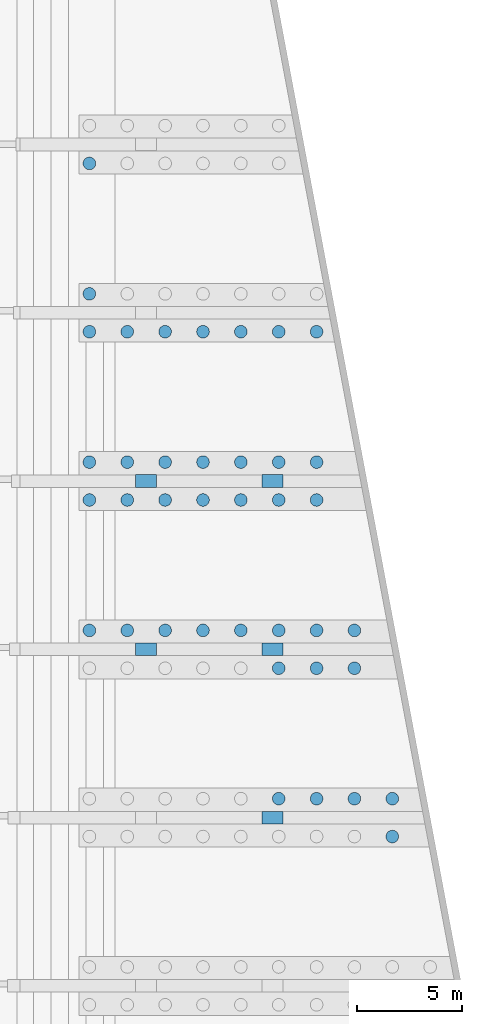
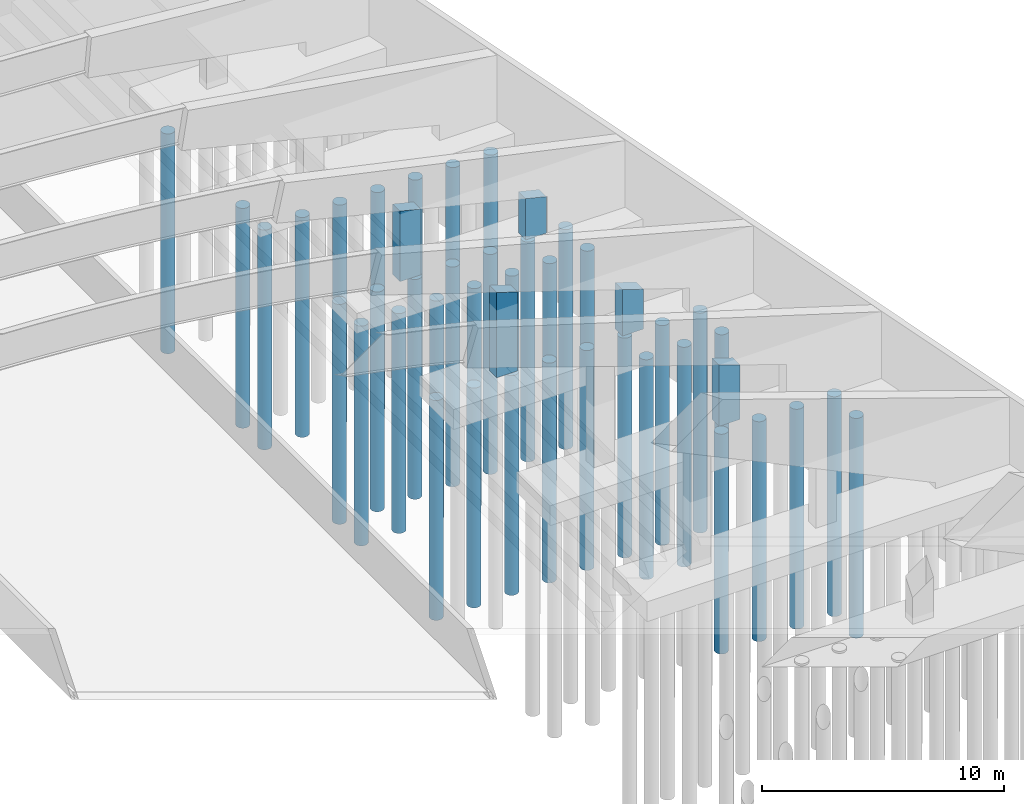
# One storey, part 4 of 10: 44 columns.
"""IFC2X3 building model written with IfcOpenShell, lengths in millimetres."""

import ifcopenshell
import ifcopenshell.guid

model = None  # the IFC model being written
_history = None  # IfcOwnerHistory: only IFC2X3 demands one
_inside = {}  # id of a spatial element -> (the spatial element, [elements in it])
_under = {}  # id of a project, library or spatial element -> (it, [spatial elements below it])
_declared = {}  # id of a project -> (the project, [libraries it declares])
_typed = {}  # id of a type object -> (the type object, [elements of that type])
_made_of = {}  # id of a material, layer set ... -> (it, [elements and type objects made of it])


def new_model(schema):
    """Start an empty IFC model of exactly this schema.

    Asked for "IFC4X3", IfcOpenShell would pick the latest addendum, in which some entities
    have other attributes; the version numbers below select the first issue.
    IFC2X3 requires an IfcOwnerHistory on every rooted entity: one is made here for all.
    """
    global model, _history
    if schema == "IFC4X3":
        model = ifcopenshell.file(schema_version=(4, 3, 0, 0))
    else:
        model = ifcopenshell.file(schema=schema)
    _inside.clear()
    _under.clear()
    _declared.clear()
    _typed.clear()
    _made_of.clear()
    _history = None
    if model.schema == "IFC2X3":
        org = make("IfcOrganization", Name="unknown")
        user = make(
            "IfcPersonAndOrganization",
            ThePerson=make("IfcPerson", FamilyName="unknown"),
            TheOrganization=org,
        )
        app = make(
            "IfcApplication",
            ApplicationDeveloper=org,
            Version="unknown",
            ApplicationFullName="unknown",
            ApplicationIdentifier="unknown",
        )
        _history = make(
            "IfcOwnerHistory",
            OwningUser=user,
            OwningApplication=app,
            ChangeAction="ADDED",
            CreationDate=0,
        )
    return model


def make(cls, **values):
    """One entity of the class cls with the attributes given. An attribute that is None is left unset."""
    return model.create_entity(
        cls, **{name: value for name, value in values.items() if value is not None}
    )


def rooted(cls, **values):
    """An entity with a GlobalId (a new one), such as an element, a storey or a relation."""
    return make(cls, GlobalId=ifcopenshell.guid.new(), OwnerHistory=_history, **values)


def si_unit(unit_type, name, prefix=None):
    """IfcSIUnit, for example si_unit("LENGTHUNIT", "METRE", prefix="MILLI")."""
    return make("IfcSIUnit", UnitType=unit_type, Prefix=prefix, Name=name)


def derived_unit(unit_type, elements):
    """IfcDerivedUnit: a product of units, each with its exponent."""
    return make(
        "IfcDerivedUnit",
        Elements=[
            make("IfcDerivedUnitElement", Unit=unit, Exponent=power)
            for unit, power in elements
        ],
        UnitType=unit_type,
    )


def assignment(units):
    """IfcUnitAssignment: the units of a project."""
    return None if units is None else make("IfcUnitAssignment", Units=units)


def point(xyz):
    """IfcCartesianPoint."""
    return None if xyz is None else make("IfcCartesianPoint", Coordinates=xyz)


def direction(xyz):
    """IfcDirection."""
    return None if xyz is None else make("IfcDirection", DirectionRatios=xyz)


def frame(location, z_axis=None, x_axis=None):
    """IfcAxis2Placement3D, a coordinate frame: its origin and axes. An axis left out is left unset."""
    return make(
        "IfcAxis2Placement3D",
        Location=point(location),
        Axis=direction(z_axis),
        RefDirection=direction(x_axis),
    )


def frame_2d(location, x_axis=None):
    """IfcAxis2Placement2D, a coordinate frame in the plane: its origin and x axis."""
    return make(
        "IfcAxis2Placement2D", Location=point(location), RefDirection=direction(x_axis)
    )


def origin():
    """The frame at (0, 0, 0) with its axes left unset."""
    return frame((0.0, 0.0, 0.0))


def origin_2d_with_axis():
    """The frame at (0, 0) in the plane with the x axis (1, 0) written out."""
    return frame_2d((0.0, 0.0), x_axis=(1.0, 0.0))


def place(relative_to, where):
    """IfcLocalPlacement: puts the frame where relative to a parent placement (None: the world)."""
    return make(
        "IfcLocalPlacement", PlacementRelTo=relative_to, RelativePlacement=where
    )


def context(
    kind, dimensions, precision=None, world=None, true_north=None, identifier=None
):
    """IfcGeometricRepresentationContext, for example the 3D "Model" context."""
    return make(
        "IfcGeometricRepresentationContext",
        ContextIdentifier=identifier,
        ContextType=kind,
        CoordinateSpaceDimension=dimensions,
        Precision=precision,
        WorldCoordinateSystem=world,
        TrueNorth=true_north,
    )


def subcontext(parent, identifier, kind, view, scale=None):
    """IfcGeometricRepresentationSubContext, for example "Body" below "Model"."""
    return make(
        "IfcGeometricRepresentationSubContext",
        ContextIdentifier=identifier,
        ContextType=kind,
        ParentContext=parent,
        TargetScale=scale,
        TargetView=view,
    )


def project(units=None, contexts=None):
    """IfcProject with its units and contexts."""
    return rooted(
        "IfcProject",
        Name="project",
        RepresentationContexts=contexts,
        UnitsInContext=assignment(units),
    )


def spatial(cls, under=None, at=None, **own):
    """A site, building, storey or space (cls), placed at a placement, below another one or the project."""
    s = rooted(cls, ObjectPlacement=at, **own)
    if under is not None:
        _under.setdefault(under.id(), (under, []))[1].append(s)
    return s


def profile(cls, at=None, kind="AREA", **sizes):
    """A parametric profile (cls). Its sizes go by their IFC names, for example OverallWidth=200.0."""
    return make(cls, ProfileType=kind, Position=at, **sizes)


def rectangle(**sizes):
    """IfcRectangleProfileDef."""
    return profile("IfcRectangleProfileDef", **sizes)


def circle(**sizes):
    """IfcCircleProfileDef."""
    return profile("IfcCircleProfileDef", **sizes)


def extrude(swept, where, along, depth):
    """IfcExtrudedAreaSolid: the profile swept, set in the frame where, extruded along a direction by depth."""
    return make(
        "IfcExtrudedAreaSolid",
        SweptArea=swept,
        Position=where,
        ExtrudedDirection=direction(along),
        Depth=depth,
    )


def clip(a, b, op="DIFFERENCE"):
    """IfcBooleanClippingResult: the solid a cut by the half space b."""
    return make(
        "IfcBooleanClippingResult", Operator=op, FirstOperand=a, SecondOperand=b
    )


def halfspace(plane, agree):
    """IfcHalfSpaceSolid: all space on one side of the plane z = 0 of the frame plane."""
    return make(
        "IfcHalfSpaceSolid",
        BaseSurface=make("IfcPlane", Position=plane),
        AgreementFlag=agree,
    )


def shape(context_of_items, identifier, shape_type, items):
    """IfcShapeRepresentation: the items that make up one representation, for example the "Body"."""
    return make(
        "IfcShapeRepresentation",
        ContextOfItems=context_of_items,
        RepresentationIdentifier=identifier,
        RepresentationType=shape_type,
        Items=items,
    )


def source(mapping_origin, context_of_items, identifier, shape_type, items):
    """IfcRepresentationMap: a shape defined once, which mapped items show again and again."""
    return make(
        "IfcRepresentationMap",
        MappingOrigin=mapping_origin,
        MappedRepresentation=shape(context_of_items, identifier, shape_type, items),
    )


def transform(
    local_origin,
    x_axis=None,
    y_axis=None,
    z_axis=None,
    scale=None,
    scale2=None,
    scale3=None,
    uniform=True,
):
    """IfcCartesianTransformationOperator3D, or its non-uniform kind. x_axis, y_axis, z_axis: its Axis1, 2, 3."""
    if uniform:
        return make(
            "IfcCartesianTransformationOperator3D",
            Axis1=direction(x_axis),
            Axis2=direction(y_axis),
            LocalOrigin=point(local_origin),
            Scale=scale,
            Axis3=direction(z_axis),
        )
    return make(
        "IfcCartesianTransformationOperator3DnonUniform",
        Axis1=direction(x_axis),
        Axis2=direction(y_axis),
        LocalOrigin=point(local_origin),
        Scale=scale,
        Axis3=direction(z_axis),
        Scale2=scale2,
        Scale3=scale3,
    )


def mapped(mapping_source, mapping_target):
    """IfcMappedItem: shows the shape of a source again, moved by a transform."""
    return make(
        "IfcMappedItem", MappingSource=mapping_source, MappingTarget=mapping_target
    )


def material(Name=None, Category=None):
    """IfcMaterial."""
    return make("IfcMaterial", Name=Name, Category=Category)


def made_of(thing, what):
    """Note that an element or type object is made of a material, layer set ...; save() writes the relation."""
    if what is not None:
        _made_of.setdefault(what.id(), (what, []))[1].append(thing)
    return thing


def type_object(cls, material=None, **own):
    """A type object (cls), such as IfcWallType, which elements share."""
    return made_of(rooted(cls, **own), material)


def type_shapes(of_type, sources):
    """Give a type object the sources (RepresentationMaps) that its elements show as mapped items."""
    of_type.RepresentationMaps = sources


def element(
    cls,
    number,
    at=None,
    inside=None,
    cuts=None,
    type_object=None,
    material=None,
    context=None,
    identifier="Body",
    shape_type=None,
    held_by="IfcProductDefinitionShape",
    body=None,
    shapes=None,
    **own,
):
    """One element of the class cls, such as IfcWall. Its Tag is "e" and its number.

    at: its placement. inside: the storey or other place that contains it. cuts: it is an
    opening in that element (IfcRelVoidsElement). A single representation is given by context,
    identifier, shape_type and body (its items); several are given by shapes. held_by: the class
    of the entity that holds the representations. save() writes the other relations.
    """
    e = rooted(cls, Tag="e%d" % number, ObjectPlacement=at, **own)
    if body is not None:
        shapes = [shape(context, identifier, shape_type, body)]
    if shapes is not None:
        e.Representation = make(held_by, Representations=shapes)
    if inside is not None:
        _inside.setdefault(inside.id(), (inside, []))[1].append(e)
    if cuts is not None:
        rooted(
            "IfcRelVoidsElement", RelatingBuildingElement=cuts, RelatedOpeningElement=e
        )
    if type_object is not None:
        _typed.setdefault(type_object.id(), (type_object, []))[1].append(e)
    return made_of(e, material)


def aggregate(whole, parts):
    """IfcRelAggregates: a whole, such as a stair, and the parts it consists of."""
    return rooted("IfcRelAggregates", RelatingObject=whole, RelatedObjects=parts)


def save(model, path):
    """Write the relations noted so far, then the file.

    IfcRelAggregates (storeys below a building ...), IfcRelContainedInSpatialStructure (elements
    in a storey), IfcRelDefinesByType, IfcRelAssociatesMaterial and IfcRelDeclares: one each for
    every whole, place, type object, material and project.
    """
    for whole, parts in _under.values():
        aggregate(whole, parts)
    for where, things in _inside.values():
        rooted(
            "IfcRelContainedInSpatialStructure",
            RelatedElements=things,
            RelatingStructure=where,
        )
    for kind, things in _typed.values():
        rooted("IfcRelDefinesByType", RelatedObjects=things, RelatingType=kind)
    for what, things in _made_of.values():
        rooted("IfcRelAssociatesMaterial", RelatedObjects=things, RelatingMaterial=what)
    for by, libraries in _declared.values():
        rooted("IfcRelDeclares", RelatingContext=by, RelatedDefinitions=libraries)
    model.write(path)


model = new_model("IFC2X3")

# Units and contexts
model_context = context("Model", 3, precision=0.01, world=origin(), true_north=direction((6.12303176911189e-17, 1.0)))
body_context = subcontext(model_context, "Body", "Model", "MODEL_VIEW")
ifc_project = project(units=[si_unit("LENGTHUNIT", "METRE", prefix="MILLI"), si_unit("AREAUNIT", "SQUARE_METRE"), si_unit("VOLUMEUNIT", "CUBIC_METRE"), si_unit("PLANEANGLEUNIT", "RADIAN"), si_unit("MASSUNIT", "GRAM", prefix="KILO"), derived_unit("MASSDENSITYUNIT", [(si_unit("MASSUNIT", "GRAM", prefix="KILO"), 1), (si_unit("LENGTHUNIT", "METRE"), -3)]), si_unit("TIMEUNIT", "SECOND"), si_unit("FREQUENCYUNIT", "HERTZ"), si_unit("THERMODYNAMICTEMPERATUREUNIT", "DEGREE_CELSIUS"), derived_unit("THERMALTRANSMITTANCEUNIT", [(si_unit("MASSUNIT", "GRAM", prefix="KILO"), 1), (si_unit("THERMODYNAMICTEMPERATUREUNIT", "KELVIN"), -1), (si_unit("TIMEUNIT", "SECOND"), -3)]), derived_unit("VOLUMETRICFLOWRATEUNIT", [(si_unit("LENGTHUNIT", "METRE"), 3), (si_unit("TIMEUNIT", "SECOND"), -1)]), si_unit("ELECTRICCURRENTUNIT", "AMPERE"), si_unit("ELECTRICVOLTAGEUNIT", "VOLT"), si_unit("POWERUNIT", "WATT"), si_unit("FORCEUNIT", "NEWTON", prefix="KILO"), si_unit("ILLUMINANCEUNIT", "LUX"), si_unit("LUMINOUSFLUXUNIT", "LUMEN"), si_unit("LUMINOUSINTENSITYUNIT", "CANDELA"), derived_unit("USERDEFINED", [(si_unit("MASSUNIT", "GRAM", prefix="KILO"), -1), (si_unit("LENGTHUNIT", "METRE"), -2), (si_unit("TIMEUNIT", "SECOND"), 3), (si_unit("LUMINOUSFLUXUNIT", "LUMEN"), 1)]), derived_unit("LINEARVELOCITYUNIT", [(si_unit("LENGTHUNIT", "METRE"), 1), (si_unit("TIMEUNIT", "SECOND"), -1)]), si_unit("PRESSUREUNIT", "PASCAL"), derived_unit("USERDEFINED", [(si_unit("LENGTHUNIT", "METRE"), -2), (si_unit("MASSUNIT", "GRAM", prefix="KILO"), 1), (si_unit("TIMEUNIT", "SECOND"), -2)])], contexts=[model_context])

# Site, building, storey
site_placement = place(None, origin())
site = spatial("IfcSite", under=ifc_project, at=site_placement, Name="Default", CompositionType="ELEMENT")
building_placement = place(site_placement, origin())
building = spatial("IfcBuilding", under=site, at=building_placement, CompositionType="ELEMENT")
storey_placement = place(building_placement, origin())
storey = spatial("IfcBuildingStorey", under=building, at=storey_placement, Name="Default", CompositionType="ELEMENT", Elevation=0.0)

# Columns
ifc_material = material(Name="CONCRETE/28MPa 117")
column_type_1 = type_object("IfcColumnType", Name="PILOTE", PredefinedType="COLUMN")
shared_shape_1 = source(origin(), body_context, "Body", "SweptSolid", [
    extrude(circle(Radius=300.000000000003, at=origin_2d_with_axis()), frame((121208.86, 91702.3654658, -15300.0), z_axis=(0.0, 0.0, 1.0), x_axis=(-1.0, 0.0, 0.0)), (0.0, 0.0, 1.0), 11100.0),
])
type_shapes(column_type_1, [shared_shape_1])
column_1_placement = place(building_placement, origin())
element("IfcColumn", 1, at=column_1_placement, inside=storey, type_object=column_type_1, material=ifc_material, Name="PILOTE:PILOTE", ObjectType="PILOTE:PILOTE", context=body_context, shape_type="MappedRepresentation", body=[
    mapped(shared_shape_1, transform((0.0, 0.0, 0.0), scale=1.0)),
])
column_type_2 = type_object("IfcColumnType", Name="PILOTE", PredefinedType="COLUMN")
shared_shape_2 = source(origin(), body_context, "Body", "SweptSolid", [
    extrude(circle(Radius=300.000000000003, at=origin_2d_with_axis()), frame((121208.86, 89902.3654658, -15300.0), z_axis=(0.0, 0.0, 1.0), x_axis=(-1.0, 0.0, 0.0)), (0.0, 0.0, 1.0), 11100.0),
])
type_shapes(column_type_2, [shared_shape_2])
column_2_placement = place(building_placement, origin())
element("IfcColumn", 2, at=column_2_placement, inside=storey, type_object=column_type_2, material=ifc_material, Name="PILOTE 160:PILOTE 160", ObjectType="PILOTE 160:PILOTE 160", context=body_context, shape_type="MappedRepresentation", body=[
    mapped(shared_shape_2, transform((0.0, 0.0, 0.0), scale=1.0)),
])
column_type_3 = type_object("IfcColumnType", Name="PILOTE", PredefinedType="COLUMN")
shared_shape_3 = source(origin(), body_context, "Body", "SweptSolid", [
    extrude(circle(Radius=300.000000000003, at=origin_2d_with_axis()), frame((119408.86, 91702.3654658, -15300.0), z_axis=(0.0, 0.0, 1.0), x_axis=(-1.0, 0.0, 0.0)), (0.0, 0.0, 1.0), 11100.0),
])
type_shapes(column_type_3, [shared_shape_3])
column_3_placement = place(building_placement, origin())
element("IfcColumn", 3, at=column_3_placement, inside=storey, type_object=column_type_3, material=ifc_material, Name="PILOTE 168:PILOTE 168", ObjectType="PILOTE 168:PILOTE 168", context=body_context, shape_type="MappedRepresentation", body=[
    mapped(shared_shape_3, transform((0.0, 0.0, 0.0), scale=1.0)),
])
column_type_4 = type_object("IfcColumnType", Name="PILOTE", PredefinedType="COLUMN")
shared_shape_4 = source(origin(), body_context, "Body", "SweptSolid", [
    extrude(circle(Radius=300.000000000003, at=origin_2d_with_axis()), frame((117608.86, 91702.3654658, -15300.0), z_axis=(0.0, 0.0, 1.0), x_axis=(-1.0, 0.0, 0.0)), (0.0, 0.0, 1.0), 11100.0),
])
type_shapes(column_type_4, [shared_shape_4])
column_4_placement = place(building_placement, origin())
element("IfcColumn", 4, at=column_4_placement, inside=storey, type_object=column_type_4, material=ifc_material, Name="PILOTE 184:PILOTE 184", ObjectType="PILOTE 184:PILOTE 184", context=body_context, shape_type="MappedRepresentation", body=[
    mapped(shared_shape_4, transform((0.0, 0.0, 0.0), scale=1.0)),
])
column_type_5 = type_object("IfcColumnType", Name="PILOTE", PredefinedType="COLUMN")
shared_shape_5 = source(origin(), body_context, "Body", "SweptSolid", [
    extrude(circle(Radius=300.000000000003, at=origin_2d_with_axis()), frame((115808.86, 91702.3654658, -15300.0), z_axis=(0.0, 0.0, 1.0), x_axis=(-1.0, 0.0, 0.0)), (0.0, 0.0, 1.0), 11100.0),
])
type_shapes(column_type_5, [shared_shape_5])
column_5_placement = place(building_placement, origin())
element("IfcColumn", 5, at=column_5_placement, inside=storey, type_object=column_type_5, material=ifc_material, Name="PILOTE 200:PILOTE 200", ObjectType="PILOTE 200:PILOTE 200", context=body_context, shape_type="MappedRepresentation", body=[
    mapped(shared_shape_5, transform((0.0, 0.0, 0.0), scale=1.0)),
])
column_type_6 = type_object("IfcColumnType", Name="PILOTE", PredefinedType="COLUMN")
shared_shape_6 = source(origin(), body_context, "Body", "SweptSolid", [
    extrude(circle(Radius=300.000000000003, at=origin_2d_with_axis()), frame((106808.86, 121902.3654658, -15300.0), z_axis=(0.0, 0.0, 1.0), x_axis=(-1.0, 0.0, 0.0)), (0.0, 0.0, 1.0), 11100.0),
])
type_shapes(column_type_6, [shared_shape_6])
column_6_placement = place(building_placement, origin())
element("IfcColumn", 6, at=column_6_placement, inside=storey, type_object=column_type_6, material=ifc_material, Name="PILOTE 414:PILOTE 414", ObjectType="PILOTE 414:PILOTE 414", context=body_context, shape_type="MappedRepresentation", body=[
    mapped(shared_shape_6, transform((0.0, 0.0, 0.0), scale=1.0)),
])
column_type_7 = type_object("IfcColumnType", Name="PILOTE", PredefinedType="COLUMN")
shared_shape_7 = source(origin(), body_context, "Body", "SweptSolid", [
    extrude(circle(Radius=300.000000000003, at=origin_2d_with_axis()), frame((117608.86, 113902.3654658, -15300.0), z_axis=(0.0, 0.0, 1.0), x_axis=(-1.0, 0.0, 0.0)), (0.0, 0.0, 1.0), 11100.0),
])
type_shapes(column_type_7, [shared_shape_7])
column_7_placement = place(building_placement, origin())
element("IfcColumn", 7, at=column_7_placement, inside=storey, type_object=column_type_7, material=ifc_material, Name="PILOTE 432:PILOTE 432", ObjectType="PILOTE 432:PILOTE 432", context=body_context, shape_type="MappedRepresentation", body=[
    mapped(shared_shape_7, transform((0.0, 0.0, 0.0), scale=1.0)),
])
column_type_8 = type_object("IfcColumnType", Name="PILOTE", PredefinedType="COLUMN")
shared_shape_8 = source(origin(), body_context, "Body", "SweptSolid", [
    extrude(circle(Radius=300.000000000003, at=origin_2d_with_axis()), frame((115808.86, 113902.3654658, -15300.0), z_axis=(0.0, 0.0, 1.0), x_axis=(-1.0, 0.0, 0.0)), (0.0, 0.0, 1.0), 11100.0),
])
type_shapes(column_type_8, [shared_shape_8])
column_8_placement = place(building_placement, origin())
element("IfcColumn", 8, at=column_8_placement, inside=storey, type_object=column_type_8, material=ifc_material, Name="PILOTE 448:PILOTE 448", ObjectType="PILOTE 448:PILOTE 448", context=body_context, shape_type="MappedRepresentation", body=[
    mapped(shared_shape_8, transform((0.0, 0.0, 0.0), scale=1.0)),
])
column_type_9 = type_object("IfcColumnType", Name="PILOTE", PredefinedType="COLUMN")
shared_shape_9 = source(origin(), body_context, "Body", "SweptSolid", [
    extrude(circle(Radius=300.000000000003, at=origin_2d_with_axis()), frame((114008.86, 113902.3654658, -15300.0), z_axis=(0.0, 0.0, 1.0), x_axis=(-1.0, 0.0, 0.0)), (0.0, 0.0, 1.0), 11100.0),
])
type_shapes(column_type_9, [shared_shape_9])
column_9_placement = place(building_placement, origin())
element("IfcColumn", 9, at=column_9_placement, inside=storey, type_object=column_type_9, material=ifc_material, Name="PILOTE 466:PILOTE 466", ObjectType="PILOTE 466:PILOTE 466", context=body_context, shape_type="MappedRepresentation", body=[
    mapped(shared_shape_9, transform((0.0, 0.0, 0.0), scale=1.0)),
])
column_type_10 = type_object("IfcColumnType", Name="PILOTE", PredefinedType="COLUMN")
shared_shape_10 = source(origin(), body_context, "Body", "SweptSolid", [
    extrude(circle(Radius=300.000000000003, at=origin_2d_with_axis()), frame((112208.86, 113902.3654658, -15300.0), z_axis=(0.0, 0.0, 1.0), x_axis=(-1.0, 0.0, 0.0)), (0.0, 0.0, 1.0), 11100.0),
])
type_shapes(column_type_10, [shared_shape_10])
column_10_placement = place(building_placement, origin())
element("IfcColumn", 10, at=column_10_placement, inside=storey, type_object=column_type_10, material=ifc_material, Name="PILOTE 482:PILOTE 482", ObjectType="PILOTE 482:PILOTE 482", context=body_context, shape_type="MappedRepresentation", body=[
    mapped(shared_shape_10, transform((0.0, 0.0, 0.0), scale=1.0)),
])
column_type_11 = type_object("IfcColumnType", Name="PILOTE", PredefinedType="COLUMN")
shared_shape_11 = source(origin(), body_context, "Body", "SweptSolid", [
    extrude(circle(Radius=300.000000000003, at=origin_2d_with_axis()), frame((110408.86, 113902.3654658, -15300.0), z_axis=(0.0, 0.0, 1.0), x_axis=(-1.0, 0.0, 0.0)), (0.0, 0.0, 1.0), 11100.0),
])
type_shapes(column_type_11, [shared_shape_11])
column_11_placement = place(building_placement, origin())
element("IfcColumn", 11, at=column_11_placement, inside=storey, type_object=column_type_11, material=ifc_material, Name="PILOTE 498:PILOTE 498", ObjectType="PILOTE 498:PILOTE 498", context=body_context, shape_type="MappedRepresentation", body=[
    mapped(shared_shape_11, transform((0.0, 0.0, 0.0), scale=1.0)),
])
column_type_12 = type_object("IfcColumnType", Name="PILOTE", PredefinedType="COLUMN")
shared_shape_12 = source(origin(), body_context, "Body", "SweptSolid", [
    extrude(circle(Radius=300.000000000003, at=origin_2d_with_axis()), frame((106808.86, 115702.3654658, -15300.0), z_axis=(0.0, 0.0, 1.0), x_axis=(-1.0, 0.0, 0.0)), (0.0, 0.0, 1.0), 11100.0),
])
type_shapes(column_type_12, [shared_shape_12])
column_12_placement = place(building_placement, origin())
element("IfcColumn", 12, at=column_12_placement, inside=storey, type_object=column_type_12, material=ifc_material, Name="PILOTE 514:PILOTE 514", ObjectType="PILOTE 514:PILOTE 514", context=body_context, shape_type="MappedRepresentation", body=[
    mapped(shared_shape_12, transform((0.0, 0.0, 0.0), scale=1.0)),
])
column_type_13 = type_object("IfcColumnType", Name="PILOTE", PredefinedType="COLUMN")
shared_shape_13 = source(origin(), body_context, "Body", "SweptSolid", [
    extrude(circle(Radius=300.000000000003, at=origin_2d_with_axis()), frame((108608.86, 113902.3654658, -15300.0), z_axis=(0.0, 0.0, 1.0), x_axis=(-1.0, 0.0, 0.0)), (0.0, 0.0, 1.0), 11100.0),
])
type_shapes(column_type_13, [shared_shape_13])
column_13_placement = place(building_placement, origin())
element("IfcColumn", 13, at=column_13_placement, inside=storey, type_object=column_type_13, material=ifc_material, Name="PILOTE 524:PILOTE 524", ObjectType="PILOTE 524:PILOTE 524", context=body_context, shape_type="MappedRepresentation", body=[
    mapped(shared_shape_13, transform((0.0, 0.0, 0.0), scale=1.0)),
])
column_type_14 = type_object("IfcColumnType", Name="PILOTE", PredefinedType="COLUMN")
shared_shape_14 = source(origin(), body_context, "Body", "SweptSolid", [
    extrude(circle(Radius=300.000000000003, at=origin_2d_with_axis()), frame((106808.86, 113902.3654658, -15300.0), z_axis=(0.0, 0.0, 1.0), x_axis=(-1.0, 0.0, 0.0)), (0.0, 0.0, 1.0), 11100.0),
])
type_shapes(column_type_14, [shared_shape_14])
column_14_placement = place(building_placement, origin())
element("IfcColumn", 14, at=column_14_placement, inside=storey, type_object=column_type_14, material=ifc_material, Name="PILOTE 532:PILOTE 532", ObjectType="PILOTE 532:PILOTE 532", context=body_context, shape_type="MappedRepresentation", body=[
    mapped(shared_shape_14, transform((0.0, 0.0, 0.0), scale=1.0)),
])
column_type_15 = type_object("IfcColumnType", Name="PILOTE", PredefinedType="COLUMN")
shared_shape_15 = source(origin(), body_context, "Body", "SweptSolid", [
    extrude(circle(Radius=300.000000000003, at=origin_2d_with_axis()), frame((117608.86, 107702.3654658, -15300.0), z_axis=(0.0, 0.0, 1.0), x_axis=(-1.0, 0.0, 0.0)), (0.0, 0.0, 1.0), 11100.0),
])
type_shapes(column_type_15, [shared_shape_15])
column_15_placement = place(building_placement, origin())
element("IfcColumn", 15, at=column_15_placement, inside=storey, type_object=column_type_15, material=ifc_material, Name="PILOTE 540:PILOTE 540", ObjectType="PILOTE 540:PILOTE 540", context=body_context, shape_type="MappedRepresentation", body=[
    mapped(shared_shape_15, transform((0.0, 0.0, 0.0), scale=1.0)),
])
column_type_16 = type_object("IfcColumnType", Name="PILOTE", PredefinedType="COLUMN")
shared_shape_16 = source(origin(), body_context, "Body", "SweptSolid", [
    extrude(circle(Radius=300.000000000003, at=origin_2d_with_axis()), frame((117608.86, 105902.3654658, -15300.0), z_axis=(0.0, 0.0, 1.0), x_axis=(-1.0, 0.0, 0.0)), (0.0, 0.0, 1.0), 11100.0),
])
type_shapes(column_type_16, [shared_shape_16])
column_16_placement = place(building_placement, origin())
element("IfcColumn", 16, at=column_16_placement, inside=storey, type_object=column_type_16, material=ifc_material, Name="PILOTE 550:PILOTE 550", ObjectType="PILOTE 550:PILOTE 550", context=body_context, shape_type="MappedRepresentation", body=[
    mapped(shared_shape_16, transform((0.0, 0.0, 0.0), scale=1.0)),
])
column_type_17 = type_object("IfcColumnType", Name="PILOTE", PredefinedType="COLUMN")
shared_shape_17 = source(origin(), body_context, "Body", "SweptSolid", [
    extrude(circle(Radius=300.000000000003, at=origin_2d_with_axis()), frame((115808.86, 107702.3654658, -15300.0), z_axis=(0.0, 0.0, 1.0), x_axis=(-1.0, 0.0, 0.0)), (0.0, 0.0, 1.0), 11100.0),
])
type_shapes(column_type_17, [shared_shape_17])
column_17_placement = place(building_placement, origin())
element("IfcColumn", 17, at=column_17_placement, inside=storey, type_object=column_type_17, material=ifc_material, Name="PILOTE 558:PILOTE 558", ObjectType="PILOTE 558:PILOTE 558", context=body_context, shape_type="MappedRepresentation", body=[
    mapped(shared_shape_17, transform((0.0, 0.0, 0.0), scale=1.0)),
])
column_type_18 = type_object("IfcColumnType", Name="PILOTE", PredefinedType="COLUMN")
shared_shape_18 = source(origin(), body_context, "Body", "SweptSolid", [
    extrude(circle(Radius=300.000000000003, at=origin_2d_with_axis()), frame((115808.86, 105902.3654658, -15300.0), z_axis=(0.0, 0.0, 1.0), x_axis=(-1.0, 0.0, 0.0)), (0.0, 0.0, 1.0), 11100.0),
])
type_shapes(column_type_18, [shared_shape_18])
column_18_placement = place(building_placement, origin())
element("IfcColumn", 18, at=column_18_placement, inside=storey, type_object=column_type_18, material=ifc_material, Name="PILOTE 566:PILOTE 566", ObjectType="PILOTE 566:PILOTE 566", context=body_context, shape_type="MappedRepresentation", body=[
    mapped(shared_shape_18, transform((0.0, 0.0, 0.0), scale=1.0)),
])
column_type_19 = type_object("IfcColumnType", Name="PILOTE", PredefinedType="COLUMN")
shared_shape_19 = source(origin(), body_context, "Body", "SweptSolid", [
    extrude(circle(Radius=300.000000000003, at=origin_2d_with_axis()), frame((114008.86, 107702.3654658, -15300.0), z_axis=(0.0, 0.0, 1.0), x_axis=(-1.0, 0.0, 0.0)), (0.0, 0.0, 1.0), 11100.0),
])
type_shapes(column_type_19, [shared_shape_19])
column_19_placement = place(building_placement, origin())
element("IfcColumn", 19, at=column_19_placement, inside=storey, type_object=column_type_19, material=ifc_material, Name="PILOTE 574:PILOTE 574", ObjectType="PILOTE 574:PILOTE 574", context=body_context, shape_type="MappedRepresentation", body=[
    mapped(shared_shape_19, transform((0.0, 0.0, 0.0), scale=1.0)),
])
column_type_20 = type_object("IfcColumnType", Name="PILOTE", PredefinedType="COLUMN")
shared_shape_20 = source(origin(), body_context, "Body", "SweptSolid", [
    extrude(circle(Radius=300.000000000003, at=origin_2d_with_axis()), frame((114008.86, 105902.3654658, -15300.0), z_axis=(0.0, 0.0, 1.0), x_axis=(-1.0, 0.0, 0.0)), (0.0, 0.0, 1.0), 11100.0),
])
type_shapes(column_type_20, [shared_shape_20])
column_20_placement = place(building_placement, origin())
element("IfcColumn", 20, at=column_20_placement, inside=storey, type_object=column_type_20, material=ifc_material, Name="PILOTE 584:PILOTE 584", ObjectType="PILOTE 584:PILOTE 584", context=body_context, shape_type="MappedRepresentation", body=[
    mapped(shared_shape_20, transform((0.0, 0.0, 0.0), scale=1.0)),
])
column_type_21 = type_object("IfcColumnType", Name="PILOTE", PredefinedType="COLUMN")
shared_shape_21 = source(origin(), body_context, "Body", "SweptSolid", [
    extrude(circle(Radius=300.000000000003, at=origin_2d_with_axis()), frame((112208.86, 107702.3654658, -15300.0), z_axis=(0.0, 0.0, 1.0), x_axis=(-1.0, 0.0, 0.0)), (0.0, 0.0, 1.0), 11100.0),
])
type_shapes(column_type_21, [shared_shape_21])
column_21_placement = place(building_placement, origin())
element("IfcColumn", 21, at=column_21_placement, inside=storey, type_object=column_type_21, material=ifc_material, Name="PILOTE 592:PILOTE 592", ObjectType="PILOTE 592:PILOTE 592", context=body_context, shape_type="MappedRepresentation", body=[
    mapped(shared_shape_21, transform((0.0, 0.0, 0.0), scale=1.0)),
])
column_type_22 = type_object("IfcColumnType", Name="PILOTE", PredefinedType="COLUMN")
shared_shape_22 = source(origin(), body_context, "Body", "SweptSolid", [
    extrude(circle(Radius=300.000000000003, at=origin_2d_with_axis()), frame((112208.86, 105902.3654658, -15300.0), z_axis=(0.0, 0.0, 1.0), x_axis=(-1.0, 0.0, 0.0)), (0.0, 0.0, 1.0), 11100.0),
])
type_shapes(column_type_22, [shared_shape_22])
column_22_placement = place(building_placement, origin())
element("IfcColumn", 22, at=column_22_placement, inside=storey, type_object=column_type_22, material=ifc_material, Name="PILOTE 600:PILOTE 600", ObjectType="PILOTE 600:PILOTE 600", context=body_context, shape_type="MappedRepresentation", body=[
    mapped(shared_shape_22, transform((0.0, 0.0, 0.0), scale=1.0)),
])
column_type_23 = type_object("IfcColumnType", Name="PILOTE", PredefinedType="COLUMN")
shared_shape_23 = source(origin(), body_context, "Body", "SweptSolid", [
    extrude(circle(Radius=300.000000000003, at=origin_2d_with_axis()), frame((110408.86, 107702.3654658, -15300.0), z_axis=(0.0, 0.0, 1.0), x_axis=(-1.0, 0.0, 0.0)), (0.0, 0.0, 1.0), 11100.0),
])
type_shapes(column_type_23, [shared_shape_23])
column_23_placement = place(building_placement, origin())
element("IfcColumn", 23, at=column_23_placement, inside=storey, type_object=column_type_23, material=ifc_material, Name="PILOTE 608:PILOTE 608", ObjectType="PILOTE 608:PILOTE 608", context=body_context, shape_type="MappedRepresentation", body=[
    mapped(shared_shape_23, transform((0.0, 0.0, 0.0), scale=1.0)),
])
column_type_24 = type_object("IfcColumnType", Name="PILOTE", PredefinedType="COLUMN")
shared_shape_24 = source(origin(), body_context, "Body", "SweptSolid", [
    extrude(circle(Radius=300.000000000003, at=origin_2d_with_axis()), frame((110408.86, 105902.3654658, -15300.0), z_axis=(0.0, 0.0, 1.0), x_axis=(-1.0, 0.0, 0.0)), (0.0, 0.0, 1.0), 11100.0),
])
type_shapes(column_type_24, [shared_shape_24])
column_24_placement = place(building_placement, origin())
element("IfcColumn", 24, at=column_24_placement, inside=storey, type_object=column_type_24, material=ifc_material, Name="PILOTE 616:PILOTE 616", ObjectType="PILOTE 616:PILOTE 616", context=body_context, shape_type="MappedRepresentation", body=[
    mapped(shared_shape_24, transform((0.0, 0.0, 0.0), scale=1.0)),
])
column_type_25 = type_object("IfcColumnType", Name="PILOTE", PredefinedType="COLUMN")
shared_shape_25 = source(origin(), body_context, "Body", "SweptSolid", [
    extrude(circle(Radius=300.000000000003, at=origin_2d_with_axis()), frame((108608.86, 107702.3654658, -15300.0), z_axis=(0.0, 0.0, 1.0), x_axis=(-1.0, 0.0, 0.0)), (0.0, 0.0, 1.0), 11100.0),
])
type_shapes(column_type_25, [shared_shape_25])
column_25_placement = place(building_placement, origin())
element("IfcColumn", 25, at=column_25_placement, inside=storey, type_object=column_type_25, material=ifc_material, Name="PILOTE 624:PILOTE 624", ObjectType="PILOTE 624:PILOTE 624", context=body_context, shape_type="MappedRepresentation", body=[
    mapped(shared_shape_25, transform((0.0, 0.0, 0.0), scale=1.0)),
])
column_type_26 = type_object("IfcColumnType", Name="PILOTE", PredefinedType="COLUMN")
shared_shape_26 = source(origin(), body_context, "Body", "SweptSolid", [
    extrude(circle(Radius=300.000000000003, at=origin_2d_with_axis()), frame((106808.86, 107702.3654658, -15300.0), z_axis=(0.0, 0.0, 1.0), x_axis=(-1.0, 0.0, 0.0)), (0.0, 0.0, 1.0), 11100.0),
])
type_shapes(column_type_26, [shared_shape_26])
column_26_placement = place(building_placement, origin())
element("IfcColumn", 26, at=column_26_placement, inside=storey, type_object=column_type_26, material=ifc_material, Name="PILOTE 632:PILOTE 632", ObjectType="PILOTE 632:PILOTE 632", context=body_context, shape_type="MappedRepresentation", body=[
    mapped(shared_shape_26, transform((0.0, 0.0, 0.0), scale=1.0)),
])
column_type_27 = type_object("IfcColumnType", Name="PILOTE", PredefinedType="COLUMN")
shared_shape_27 = source(origin(), body_context, "Body", "SweptSolid", [
    extrude(circle(Radius=300.000000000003, at=origin_2d_with_axis()), frame((108608.86, 105902.3654658, -15300.0), z_axis=(0.0, 0.0, 1.0), x_axis=(-1.0, 0.0, 0.0)), (0.0, 0.0, 1.0), 11100.0),
])
type_shapes(column_type_27, [shared_shape_27])
column_27_placement = place(building_placement, origin())
element("IfcColumn", 27, at=column_27_placement, inside=storey, type_object=column_type_27, material=ifc_material, Name="PILOTE 642:PILOTE 642", ObjectType="PILOTE 642:PILOTE 642", context=body_context, shape_type="MappedRepresentation", body=[
    mapped(shared_shape_27, transform((0.0, 0.0, 0.0), scale=1.0)),
])
column_type_28 = type_object("IfcColumnType", Name="PILOTE", PredefinedType="COLUMN")
shared_shape_28 = source(origin(), body_context, "Body", "SweptSolid", [
    extrude(circle(Radius=300.000000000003, at=origin_2d_with_axis()), frame((106808.86, 105902.3654658, -15300.0), z_axis=(0.0, 0.0, 1.0), x_axis=(-1.0, 0.0, 0.0)), (0.0, 0.0, 1.0), 11100.0),
])
type_shapes(column_type_28, [shared_shape_28])
column_28_placement = place(building_placement, origin())
element("IfcColumn", 28, at=column_28_placement, inside=storey, type_object=column_type_28, material=ifc_material, Name="PILOTE 650:PILOTE 650", ObjectType="PILOTE 650:PILOTE 650", context=body_context, shape_type="MappedRepresentation", body=[
    mapped(shared_shape_28, transform((0.0, 0.0, 0.0), scale=1.0)),
])
column_type_29 = type_object("IfcColumnType", Name="PILOTE", PredefinedType="COLUMN")
shared_shape_29 = source(origin(), body_context, "Body", "SweptSolid", [
    extrude(circle(Radius=300.000000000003, at=origin_2d_with_axis()), frame((119408.86, 99702.3654658, -15300.0), z_axis=(0.0, 0.0, 1.0), x_axis=(-1.0, 0.0, 0.0)), (0.0, 0.0, 1.0), 11100.0),
])
type_shapes(column_type_29, [shared_shape_29])
column_29_placement = place(building_placement, origin())
element("IfcColumn", 29, at=column_29_placement, inside=storey, type_object=column_type_29, material=ifc_material, Name="PILOTE 658:PILOTE 658", ObjectType="PILOTE 658:PILOTE 658", context=body_context, shape_type="MappedRepresentation", body=[
    mapped(shared_shape_29, transform((0.0, 0.0, 0.0), scale=1.0)),
])
column_type_30 = type_object("IfcColumnType", Name="PILOTE", PredefinedType="COLUMN")
shared_shape_30 = source(origin(), body_context, "Body", "SweptSolid", [
    extrude(circle(Radius=300.000000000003, at=origin_2d_with_axis()), frame((119408.86, 97902.3654658, -15300.0), z_axis=(0.0, 0.0, 1.0), x_axis=(-1.0, 0.0, 0.0)), (0.0, 0.0, 1.0), 11100.0),
])
type_shapes(column_type_30, [shared_shape_30])
column_30_placement = place(building_placement, origin())
element("IfcColumn", 30, at=column_30_placement, inside=storey, type_object=column_type_30, material=ifc_material, Name="PILOTE 666:PILOTE 666", ObjectType="PILOTE 666:PILOTE 666", context=body_context, shape_type="MappedRepresentation", body=[
    mapped(shared_shape_30, transform((0.0, 0.0, 0.0), scale=1.0)),
])
column_type_31 = type_object("IfcColumnType", Name="PILOTE", PredefinedType="COLUMN")
shared_shape_31 = source(origin(), body_context, "Body", "SweptSolid", [
    extrude(circle(Radius=300.000000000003, at=origin_2d_with_axis()), frame((117608.86, 99702.3654658, -15300.0), z_axis=(0.0, 0.0, 1.0), x_axis=(-1.0, 0.0, 0.0)), (0.0, 0.0, 1.0), 11100.0),
])
type_shapes(column_type_31, [shared_shape_31])
column_31_placement = place(building_placement, origin())
element("IfcColumn", 31, at=column_31_placement, inside=storey, type_object=column_type_31, material=ifc_material, Name="PILOTE 674:PILOTE 674", ObjectType="PILOTE 674:PILOTE 674", context=body_context, shape_type="MappedRepresentation", body=[
    mapped(shared_shape_31, transform((0.0, 0.0, 0.0), scale=1.0)),
])
column_type_32 = type_object("IfcColumnType", Name="PILOTE", PredefinedType="COLUMN")
shared_shape_32 = source(origin(), body_context, "Body", "SweptSolid", [
    extrude(circle(Radius=300.000000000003, at=origin_2d_with_axis()), frame((117608.86, 97902.3654658, -15300.0), z_axis=(0.0, 0.0, 1.0), x_axis=(-1.0, 0.0, 0.0)), (0.0, 0.0, 1.0), 11100.0),
])
type_shapes(column_type_32, [shared_shape_32])
column_32_placement = place(building_placement, origin())
element("IfcColumn", 32, at=column_32_placement, inside=storey, type_object=column_type_32, material=ifc_material, Name="PILOTE 682:PILOTE 682", ObjectType="PILOTE 682:PILOTE 682", context=body_context, shape_type="MappedRepresentation", body=[
    mapped(shared_shape_32, transform((0.0, 0.0, 0.0), scale=1.0)),
])
column_type_33 = type_object("IfcColumnType", Name="PILOTE", PredefinedType="COLUMN")
shared_shape_33 = source(origin(), body_context, "Body", "SweptSolid", [
    extrude(circle(Radius=300.000000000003, at=origin_2d_with_axis()), frame((115808.86, 99702.3654658, -15300.0), z_axis=(0.0, 0.0, 1.0), x_axis=(-1.0, 0.0, 0.0)), (0.0, 0.0, 1.0), 11100.0),
])
type_shapes(column_type_33, [shared_shape_33])
column_33_placement = place(building_placement, origin())
element("IfcColumn", 33, at=column_33_placement, inside=storey, type_object=column_type_33, material=ifc_material, Name="PILOTE 690:PILOTE 690", ObjectType="PILOTE 690:PILOTE 690", context=body_context, shape_type="MappedRepresentation", body=[
    mapped(shared_shape_33, transform((0.0, 0.0, 0.0), scale=1.0)),
])
column_type_34 = type_object("IfcColumnType", Name="PILOTE", PredefinedType="COLUMN")
shared_shape_34 = source(origin(), body_context, "Body", "SweptSolid", [
    extrude(circle(Radius=300.000000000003, at=origin_2d_with_axis()), frame((115808.86, 97902.3654658, -15300.0), z_axis=(0.0, 0.0, 1.0), x_axis=(-1.0, 0.0, 0.0)), (0.0, 0.0, 1.0), 11100.0),
])
type_shapes(column_type_34, [shared_shape_34])
column_34_placement = place(building_placement, origin())
element("IfcColumn", 34, at=column_34_placement, inside=storey, type_object=column_type_34, material=ifc_material, Name="PILOTE 698:PILOTE 698", ObjectType="PILOTE 698:PILOTE 698", context=body_context, shape_type="MappedRepresentation", body=[
    mapped(shared_shape_34, transform((0.0, 0.0, 0.0), scale=1.0)),
])
column_type_35 = type_object("IfcColumnType", Name="PILOTE", PredefinedType="COLUMN")
shared_shape_35 = source(origin(), body_context, "Body", "SweptSolid", [
    extrude(circle(Radius=300.000000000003, at=origin_2d_with_axis()), frame((114008.86, 99702.3654658, -15300.0), z_axis=(0.0, 0.0, 1.0), x_axis=(-1.0, 0.0, 0.0)), (0.0, 0.0, 1.0), 11100.0),
])
type_shapes(column_type_35, [shared_shape_35])
column_35_placement = place(building_placement, origin())
element("IfcColumn", 35, at=column_35_placement, inside=storey, type_object=column_type_35, material=ifc_material, Name="PILOTE 706:PILOTE 706", ObjectType="PILOTE 706:PILOTE 706", context=body_context, shape_type="MappedRepresentation", body=[
    mapped(shared_shape_35, transform((0.0, 0.0, 0.0), scale=1.0)),
])
column_type_36 = type_object("IfcColumnType", Name="PILOTE", PredefinedType="COLUMN")
shared_shape_36 = source(origin(), body_context, "Body", "SweptSolid", [
    extrude(circle(Radius=300.000000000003, at=origin_2d_with_axis()), frame((112208.86, 99702.3654658, -15300.0), z_axis=(0.0, 0.0, 1.0), x_axis=(-1.0, 0.0, 0.0)), (0.0, 0.0, 1.0), 11100.0),
])
type_shapes(column_type_36, [shared_shape_36])
column_36_placement = place(building_placement, origin())
element("IfcColumn", 36, at=column_36_placement, inside=storey, type_object=column_type_36, material=ifc_material, Name="PILOTE 722:PILOTE 722", ObjectType="PILOTE 722:PILOTE 722", context=body_context, shape_type="MappedRepresentation", body=[
    mapped(shared_shape_36, transform((0.0, 0.0, 0.0), scale=1.0)),
])
column_type_37 = type_object("IfcColumnType", Name="PILOTE", PredefinedType="COLUMN")
shared_shape_37 = source(origin(), body_context, "Body", "SweptSolid", [
    extrude(circle(Radius=300.000000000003, at=origin_2d_with_axis()), frame((110408.86, 99702.3654658, -15300.0), z_axis=(0.0, 0.0, 1.0), x_axis=(-1.0, 0.0, 0.0)), (0.0, 0.0, 1.0), 11100.0),
])
type_shapes(column_type_37, [shared_shape_37])
column_37_placement = place(building_placement, origin())
element("IfcColumn", 37, at=column_37_placement, inside=storey, type_object=column_type_37, material=ifc_material, Name="PILOTE 738:PILOTE 738", ObjectType="PILOTE 738:PILOTE 738", context=body_context, shape_type="MappedRepresentation", body=[
    mapped(shared_shape_37, transform((0.0, 0.0, 0.0), scale=1.0)),
])
column_type_38 = type_object("IfcColumnType", Name="PILOTE", PredefinedType="COLUMN")
shared_shape_38 = source(origin(), body_context, "Body", "SweptSolid", [
    extrude(circle(Radius=300.000000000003, at=origin_2d_with_axis()), frame((108608.86, 99702.3654658, -15300.0), z_axis=(0.0, 0.0, 1.0), x_axis=(-1.0, 0.0, 0.0)), (0.0, 0.0, 1.0), 11100.0),
])
type_shapes(column_type_38, [shared_shape_38])
column_38_placement = place(building_placement, origin())
element("IfcColumn", 38, at=column_38_placement, inside=storey, type_object=column_type_38, material=ifc_material, Name="PILOTE 754:PILOTE 754", ObjectType="PILOTE 754:PILOTE 754", context=body_context, shape_type="MappedRepresentation", body=[
    mapped(shared_shape_38, transform((0.0, 0.0, 0.0), scale=1.0)),
])
column_type_39 = type_object("IfcColumnType", Name="PILOTE", PredefinedType="COLUMN")
shared_shape_39 = source(origin(), body_context, "Body", "SweptSolid", [
    extrude(circle(Radius=300.000000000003, at=origin_2d_with_axis()), frame((106808.86, 99702.3654658, -15300.0), z_axis=(0.0, 0.0, 1.0), x_axis=(-1.0, 0.0, 0.0)), (0.0, 0.0, 1.0), 11100.0),
])
type_shapes(column_type_39, [shared_shape_39])
column_39_placement = place(building_placement, origin())
element("IfcColumn", 39, at=column_39_placement, inside=storey, type_object=column_type_39, material=ifc_material, Name="PILOTE 762:PILOTE 762", ObjectType="PILOTE 762:PILOTE 762", context=body_context, shape_type="MappedRepresentation", body=[
    mapped(shared_shape_39, transform((0.0, 0.0, 0.0), scale=1.0)),
])
column_type_40 = type_object("IfcColumnType", Name="COLUMNA", PredefinedType="COLUMN")
shared_shape_40 = source(origin(), body_context, "Body", "Clipping", [
    clip(extrude(rectangle(XDim=600.000000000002, YDim=999.999999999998, at=frame_2d((0.0, -8.66862137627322e-12), x_axis=(1.0, 0.0))), frame((109508.8630785, 106806.322644, -3299.99533495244), z_axis=(0.0, 0.0, 1.0), x_axis=(0.0, -1.0, 0.0)), (0.0, 0.0, 1.0), 3561.72282091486), halfspace(frame((105543.265889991, 110860.070856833, 1112.30916340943), z_axis=(0.238361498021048, 0.0, 0.971176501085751), x_axis=(0.971176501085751, 0.0, -0.238361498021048)), False)),
])
type_shapes(column_type_40, [shared_shape_40])
column_40_placement = place(building_placement, origin())
element("IfcColumn", 40, at=column_40_placement, inside=storey, type_object=column_type_40, Name="COLUMNA 2029:COLUMNA 2029", ObjectType="COLUMNA 2029:COLUMNA 2029", context=body_context, shape_type="MappedRepresentation", body=[
    mapped(shared_shape_40, transform((0.0, 0.0, 0.0), scale=1.0)),
])
column_type_41 = type_object("IfcColumnType", Name="COLUMNA", PredefinedType="COLUMN")
shared_shape_41 = source(origin(), body_context, "Body", "Clipping", [
    clip(extrude(rectangle(XDim=600.000000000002, YDim=1000.00000000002, at=frame_2d((0.0, -1.73372427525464e-11), x_axis=(1.0, 0.0))), frame((109508.8630785, 98805.531208, -3300.00047949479), z_axis=(0.0, 0.0, 1.0), x_axis=(0.0, -1.0, 0.0)), (0.0, 0.0, 1.0), 4305.93902329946), halfspace(frame((104927.893931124, 103572.9716041, 2337.13166280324), z_axis=(0.310113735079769, 0.0, 0.95069946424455), x_axis=(0.95069946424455, 0.0, -0.310113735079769)), False)),
])
type_shapes(column_type_41, [shared_shape_41])
column_41_placement = place(building_placement, origin())
element("IfcColumn", 41, at=column_41_placement, inside=storey, type_object=column_type_41, Name="COLUMNA 2064:COLUMNA 2064", ObjectType="COLUMNA 2064:COLUMNA 2064", context=body_context, shape_type="MappedRepresentation", body=[
    mapped(shared_shape_41, transform((0.0, 0.0, 0.0), scale=1.0)),
])
column_type_42 = type_object("IfcColumnType", Name="COLUMNA", PredefinedType="COLUMN")
shared_shape_42 = source(origin(), body_context, "Body", "Clipping", [
    clip(extrude(rectangle(XDim=600.000000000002, YDim=999.999999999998, at=frame_2d((0.0, -8.66862137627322e-12), x_axis=(1.0, 0.0))), frame((115509.011306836, 106806.322644, -3299.99618786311), z_axis=(0.0, 0.0, 1.0), x_axis=(0.0, -1.0, 0.0)), (0.0, 0.0, 1.0), 2089.15629506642), halfspace(frame((112859.566686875, 109504.869291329, -683.120657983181), z_axis=(0.238433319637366, 0.0, 0.971158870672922), x_axis=(0.0, 1.0, 0.0)), False)),
])
type_shapes(column_type_42, [shared_shape_42])
column_42_placement = place(building_placement, origin())
element("IfcColumn", 42, at=column_42_placement, inside=storey, type_object=column_type_42, Name="COLUMNA 2498:COLUMNA 2498", ObjectType="COLUMNA 2498:COLUMNA 2498", context=body_context, shape_type="MappedRepresentation", body=[
    mapped(shared_shape_42, transform((0.0, 0.0, 0.0), scale=1.0)),
])
column_type_43 = type_object("IfcColumnType", Name="COLUMNA", PredefinedType="COLUMN")
shared_shape_43 = source(origin(), body_context, "Body", "Clipping", [
    clip(extrude(rectangle(XDim=600.000000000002, YDim=1000.00000000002, at=origin_2d_with_axis()), frame((115508.8630785, 98805.531208, -3300.00248837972), z_axis=(0.0, 0.0, 1.0), x_axis=(0.0, -1.0, 0.0)), (0.0, 0.0, 1.0), 2348.77903334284), halfspace(frame((112676.059153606, 101734.150403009, -190.278371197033), z_axis=(0.310112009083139, 0.0, 0.950700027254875), x_axis=(0.0, 1.0, 0.0)), False)),
])
type_shapes(column_type_43, [shared_shape_43])
column_43_placement = place(building_placement, origin())
element("IfcColumn", 43, at=column_43_placement, inside=storey, type_object=column_type_43, Name="COLUMNA 2534:COLUMNA 2534", ObjectType="COLUMNA 2534:COLUMNA 2534", context=body_context, shape_type="MappedRepresentation", body=[
    mapped(shared_shape_43, transform((0.0, 0.0, 0.0), scale=1.0)),
])
column_type_44 = type_object("IfcColumnType", Name="COLUMNA", PredefinedType="COLUMN")
shared_shape_44 = source(origin(), body_context, "Body", "Clipping", [
    clip(extrude(rectangle(XDim=599.999999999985, YDim=1000.00000000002, at=frame_2d((-8.64019966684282e-12, 8.66862137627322e-12), x_axis=(1.0, 0.0))), frame((115508.8630785, 90804.7397724, -2999.99627784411), z_axis=(0.0, 0.0, 1.0), x_axis=(0.0, -1.0, 0.0)), (0.0, 0.0, 1.0), 3086.340604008), halfspace(frame((112041.139798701, 94410.4380260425, 1089.07628902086), z_axis=(0.320101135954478, 0.0, 0.947383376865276), x_axis=(0.947383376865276, 0.0, -0.320101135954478)), False)),
])
type_shapes(column_type_44, [shared_shape_44])
column_44_placement = place(building_placement, origin())
element("IfcColumn", 44, at=column_44_placement, inside=storey, type_object=column_type_44, Name="COLUMNA 2567:COLUMNA 2567", ObjectType="COLUMNA 2567:COLUMNA 2567", context=body_context, shape_type="MappedRepresentation", body=[
    mapped(shared_shape_44, transform((0.0, 0.0, 0.0), scale=1.0)),
])

save(model, "model.ifc")
